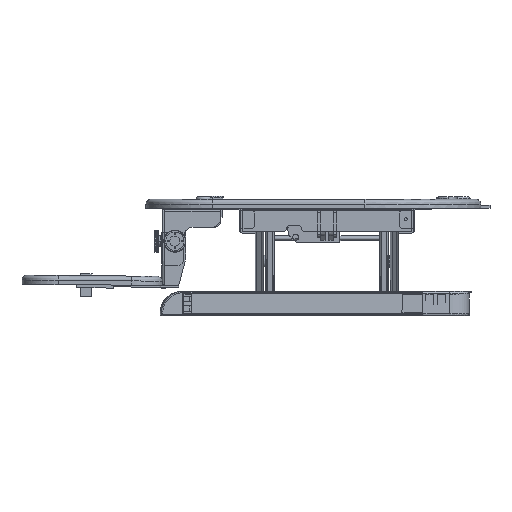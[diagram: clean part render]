
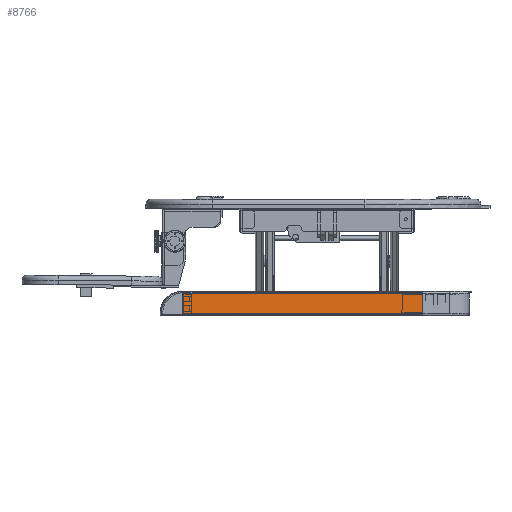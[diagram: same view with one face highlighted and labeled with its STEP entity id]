
A CAD part, front view. The second image highlights one B-rep face of the part: STEP entity #8766.
In plain terms, the highlighted free-form (B-spline) face has degree [1, 1] with [2, 2] control points.
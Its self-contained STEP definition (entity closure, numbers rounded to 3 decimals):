
#6314=(
BOUNDED_SURFACE()
B_SPLINE_SURFACE(2,1,((#177138,#177139),(#177140,#177141),(#177142,#177143),
(#177144,#177145),(#177146,#177147),(#177148,#177149),(#177150,#177151),
(#177152,#177153),(#177154,#177155)),.UNSPECIFIED.,.T.,.F.,.F.)
B_SPLINE_SURFACE_WITH_KNOTS((3,2,2,2,3),(2,2),(0.,1.571,3.142,
4.712,6.283),(0.,477.277),.UNSPECIFIED.)
GEOMETRIC_REPRESENTATION_ITEM()
RATIONAL_B_SPLINE_SURFACE(((1.,1.),(0.707,0.707),
(1.,1.),(0.707,0.707),(1.,1.),(0.707,
0.707),(1.,1.),(0.707,0.707),(1.,1.)))
REPRESENTATION_ITEM('')
SURFACE()
);
#6325=(
BOUNDED_SURFACE()
B_SPLINE_SURFACE(2,1,((#177384,#177385),(#177386,#177387),(#177388,#177389),
(#177390,#177391),(#177392,#177393),(#177394,#177395),(#177396,#177397),
(#177398,#177399),(#177400,#177401)),.UNSPECIFIED.,.T.,.F.,.F.)
B_SPLINE_SURFACE_WITH_KNOTS((3,2,2,2,3),(2,2),(0.,1.571,3.142,
4.712,6.283),(0.,477.277),.UNSPECIFIED.)
GEOMETRIC_REPRESENTATION_ITEM()
RATIONAL_B_SPLINE_SURFACE(((1.,1.),(0.707,0.707),
(1.,1.),(0.707,0.707),(1.,1.),(0.707,
0.707),(1.,1.),(0.707,0.707),(1.,1.)))
REPRESENTATION_ITEM('')
SURFACE()
);
#8766=ADVANCED_FACE('',(#11280),#86293,.T.);
#11280=FACE_OUTER_BOUND('',#14055,.T.);
#14055=EDGE_LOOP('',(#24415,#24416,#24417,#24418));
#24415=ORIENTED_EDGE('',*,*,#64864,.T.);
#24416=ORIENTED_EDGE('',*,*,#64865,.T.);
#24417=ORIENTED_EDGE('',*,*,#64866,.T.);
#24418=ORIENTED_EDGE('',*,*,#64867,.T.);
#37297=PCURVE('',#86293,#50179);
#37298=PCURVE('',#86293,#50180);
#37299=PCURVE('',#86293,#50181);
#37300=PCURVE('',#86293,#50182);
#37308=PCURVE('',#86294,#50190);
#37316=PCURVE('',#6314,#50198);
#37319=PCURVE('',#86295,#50201);
#37454=PCURVE('',#6325,#50336);
#50179=DEFINITIONAL_REPRESENTATION('',(#77654),#212408);
#50180=DEFINITIONAL_REPRESENTATION('',(#77656),#212408);
#50181=DEFINITIONAL_REPRESENTATION('',(#77658),#212408);
#50182=DEFINITIONAL_REPRESENTATION('',(#77660),#212408);
#50190=DEFINITIONAL_REPRESENTATION('',(#77667),#212408);
#50198=DEFINITIONAL_REPRESENTATION('',(#77680),#212408);
#50201=DEFINITIONAL_REPRESENTATION('',(#77683),#212408);
#50336=DEFINITIONAL_REPRESENTATION('',(#77826),#212408);
#58338=SURFACE_CURVE('',#77653,(#37297,#37308),.PCURVE_S1.);
#58339=SURFACE_CURVE('',#77655,(#37298,#37316),.PCURVE_S1.);
#58340=SURFACE_CURVE('',#77657,(#37299,#37319),.PCURVE_S1.);
#58341=SURFACE_CURVE('',#77659,(#37300,#37454),.PCURVE_S1.);
#64864=EDGE_CURVE('',#84593,#84594,#58338,.T.);
#64865=EDGE_CURVE('',#84594,#84596,#58339,.T.);
#64866=EDGE_CURVE('',#84596,#84595,#58340,.T.);
#64867=EDGE_CURVE('',#84595,#84593,#58341,.T.);
#77653=B_SPLINE_CURVE_WITH_KNOTS('',1,(#177458,#177459),.UNSPECIFIED.,.F.,
 .F.,(2,2),(-32.,0.),.UNSPECIFIED.);
#77654=B_SPLINE_CURVE_WITH_KNOTS('',1,(#177460,#177461),.UNSPECIFIED.,.F.,
 .F.,(2,2),(-32.,0.),.UNSPECIFIED.);
#77655=B_SPLINE_CURVE_WITH_KNOTS('',1,(#177462,#177463),.UNSPECIFIED.,.F.,
 .F.,(2,2),(-396.001,0.),.UNSPECIFIED.);
#77656=B_SPLINE_CURVE_WITH_KNOTS('',1,(#177464,#177465),.UNSPECIFIED.,.F.,
 .F.,(2,2),(-396.001,0.),.UNSPECIFIED.);
#77657=B_SPLINE_CURVE_WITH_KNOTS('',1,(#177466,#177467),.UNSPECIFIED.,.F.,
 .F.,(2,2),(-32.,0.),.UNSPECIFIED.);
#77658=B_SPLINE_CURVE_WITH_KNOTS('',1,(#177468,#177469),.UNSPECIFIED.,.F.,
 .F.,(2,2),(-32.,0.),.UNSPECIFIED.);
#77659=B_SPLINE_CURVE_WITH_KNOTS('',1,(#177470,#177471),.UNSPECIFIED.,.F.,
 .F.,(2,2),(-396.001,0.),.UNSPECIFIED.);
#77660=B_SPLINE_CURVE_WITH_KNOTS('',1,(#177472,#177473),.UNSPECIFIED.,.F.,
 .F.,(2,2),(-396.001,0.),.UNSPECIFIED.);
#77667=B_SPLINE_CURVE_WITH_KNOTS('',1,(#177510,#177511),.UNSPECIFIED.,.F.,
 .F.,(2,2),(-32.,0.),.UNSPECIFIED.);
#77680=B_SPLINE_CURVE_WITH_KNOTS('',1,(#177539,#177540),.UNSPECIFIED.,.F.,
 .F.,(2,2),(-396.001,0.),.UNSPECIFIED.);
#77683=B_SPLINE_CURVE_WITH_KNOTS('',1,(#177551,#177552),.UNSPECIFIED.,.F.,
 .F.,(2,2),(-32.,0.),.UNSPECIFIED.);
#77826=B_SPLINE_CURVE_WITH_KNOTS('',1,(#177996,#177997),.UNSPECIFIED.,.F.,
 .F.,(2,2),(-396.001,0.),.UNSPECIFIED.);
#84593=VERTEX_POINT('',#177402);
#84594=VERTEX_POINT('',#177403);
#84595=VERTEX_POINT('',#177404);
#84596=VERTEX_POINT('',#177405);
#86293=B_SPLINE_SURFACE_WITH_KNOTS('',1,1,((#177130,#177131),(#177132,#177133)),
 .UNSPECIFIED.,.F.,.F.,.F.,(2,2),(2,2),(0.309,39.691),
(-40.139,436.14),.UNSPECIFIED.);
#86294=B_SPLINE_SURFACE_WITH_KNOTS('',1,1,((#177134,#177135),(#177136,#177137)),
 .UNSPECIFIED.,.F.,.F.,.F.,(2,2),(2,2),(-44.491,4.491),
(11.64,42.718),.UNSPECIFIED.);
#86295=B_SPLINE_SURFACE_WITH_KNOTS('',1,1,((#177156,#177157),(#177158,#177159)),
 .UNSPECIFIED.,.F.,.F.,.F.,(2,2),(2,2),(-44.491,4.491),
(56.961,88.039),.UNSPECIFIED.);
#177130=CARTESIAN_POINT('',(47.191,327.441,-56.691));
#177131=CARTESIAN_POINT('',(-426.479,377.226,-56.691));
#177132=CARTESIAN_POINT('',(47.191,327.441,-17.309));
#177133=CARTESIAN_POINT('',(-426.479,377.226,-17.309));
#177134=CARTESIAN_POINT('',(-383.629,400.916,-12.509));
#177135=CARTESIAN_POINT('',(-386.877,370.008,-12.509));
#177136=CARTESIAN_POINT('',(-383.629,400.916,-61.491));
#177137=CARTESIAN_POINT('',(-386.877,370.008,-61.491));
#177138=CARTESIAN_POINT('',(48.524,335.345,-53.));
#177139=CARTESIAN_POINT('',(-426.139,385.234,-53.));
#177140=CARTESIAN_POINT('',(48.524,335.345,-57.));
#177141=CARTESIAN_POINT('',(-426.139,385.234,-57.));
#177142=CARTESIAN_POINT('',(48.105,331.367,-57.));
#177143=CARTESIAN_POINT('',(-426.557,381.256,-57.));
#177144=CARTESIAN_POINT('',(47.687,327.389,-57.));
#177145=CARTESIAN_POINT('',(-426.975,377.278,-57.));
#177146=CARTESIAN_POINT('',(47.687,327.389,-53.));
#177147=CARTESIAN_POINT('',(-426.975,377.278,-53.));
#177148=CARTESIAN_POINT('',(47.687,327.389,-49.));
#177149=CARTESIAN_POINT('',(-426.975,377.278,-49.));
#177150=CARTESIAN_POINT('',(48.105,331.367,-49.));
#177151=CARTESIAN_POINT('',(-426.557,381.256,-49.));
#177152=CARTESIAN_POINT('',(48.524,335.345,-49.));
#177153=CARTESIAN_POINT('',(-426.139,385.234,-49.));
#177154=CARTESIAN_POINT('',(48.524,335.345,-53.));
#177155=CARTESIAN_POINT('',(-426.139,385.234,-53.));
#177156=CARTESIAN_POINT('',(6.954,328.615,-12.509));
#177157=CARTESIAN_POINT('',(10.203,359.523,-12.509));
#177158=CARTESIAN_POINT('',(6.954,328.615,-61.491));
#177159=CARTESIAN_POINT('',(10.203,359.523,-61.491));
#177384=CARTESIAN_POINT('',(48.524,335.345,-21.));
#177385=CARTESIAN_POINT('',(-426.139,385.234,-21.));
#177386=CARTESIAN_POINT('',(48.524,335.345,-25.));
#177387=CARTESIAN_POINT('',(-426.139,385.234,-25.));
#177388=CARTESIAN_POINT('',(48.105,331.367,-25.));
#177389=CARTESIAN_POINT('',(-426.557,381.256,-25.));
#177390=CARTESIAN_POINT('',(47.687,327.389,-25.));
#177391=CARTESIAN_POINT('',(-426.975,377.278,-25.));
#177392=CARTESIAN_POINT('',(47.687,327.389,-21.));
#177393=CARTESIAN_POINT('',(-426.975,377.278,-21.));
#177394=CARTESIAN_POINT('',(47.687,327.389,-17.));
#177395=CARTESIAN_POINT('',(-426.975,377.278,-17.));
#177396=CARTESIAN_POINT('',(48.105,331.367,-17.));
#177397=CARTESIAN_POINT('',(-426.557,381.256,-17.));
#177398=CARTESIAN_POINT('',(48.524,335.345,-17.));
#177399=CARTESIAN_POINT('',(-426.139,385.234,-17.));
#177400=CARTESIAN_POINT('',(48.524,335.345,-21.));
#177401=CARTESIAN_POINT('',(-426.139,385.234,-21.));
#177402=CARTESIAN_POINT('',(-386.56,373.03,-21.));
#177403=CARTESIAN_POINT('',(-386.56,373.03,-53.));
#177404=CARTESIAN_POINT('',(7.272,331.637,-21.));
#177405=CARTESIAN_POINT('',(7.272,331.637,-53.));
#177458=CARTESIAN_POINT('',(-386.56,373.03,-21.));
#177459=CARTESIAN_POINT('',(-386.56,373.03,-53.));
#177460=CARTESIAN_POINT('',(36.,396.001));
#177461=CARTESIAN_POINT('',(4.,396.001));
#177462=CARTESIAN_POINT('',(-386.56,373.03,-53.));
#177463=CARTESIAN_POINT('',(7.272,331.637,-53.));
#177464=CARTESIAN_POINT('',(4.,396.001));
#177465=CARTESIAN_POINT('',(4.,0.));
#177466=CARTESIAN_POINT('',(7.272,331.637,-53.));
#177467=CARTESIAN_POINT('',(7.272,331.637,-21.));
#177468=CARTESIAN_POINT('',(4.,0.));
#177469=CARTESIAN_POINT('',(36.,0.));
#177470=CARTESIAN_POINT('',(7.272,331.637,-21.));
#177471=CARTESIAN_POINT('',(-386.56,373.03,-21.));
#177472=CARTESIAN_POINT('',(36.,0.));
#177473=CARTESIAN_POINT('',(36.,396.001));
#177510=CARTESIAN_POINT('',(-36.,39.679));
#177511=CARTESIAN_POINT('',(-4.,39.679));
#177539=CARTESIAN_POINT('',(3.142,436.639));
#177540=CARTESIAN_POINT('',(3.142,40.638));
#177551=CARTESIAN_POINT('',(-4.,60.));
#177552=CARTESIAN_POINT('',(-36.,60.));
#177996=CARTESIAN_POINT('',(3.142,40.638));
#177997=CARTESIAN_POINT('',(3.142,436.639));
#212408=(
GEOMETRIC_REPRESENTATION_CONTEXT(2)
PARAMETRIC_REPRESENTATION_CONTEXT()
REPRESENTATION_CONTEXT('pspace','')
);
